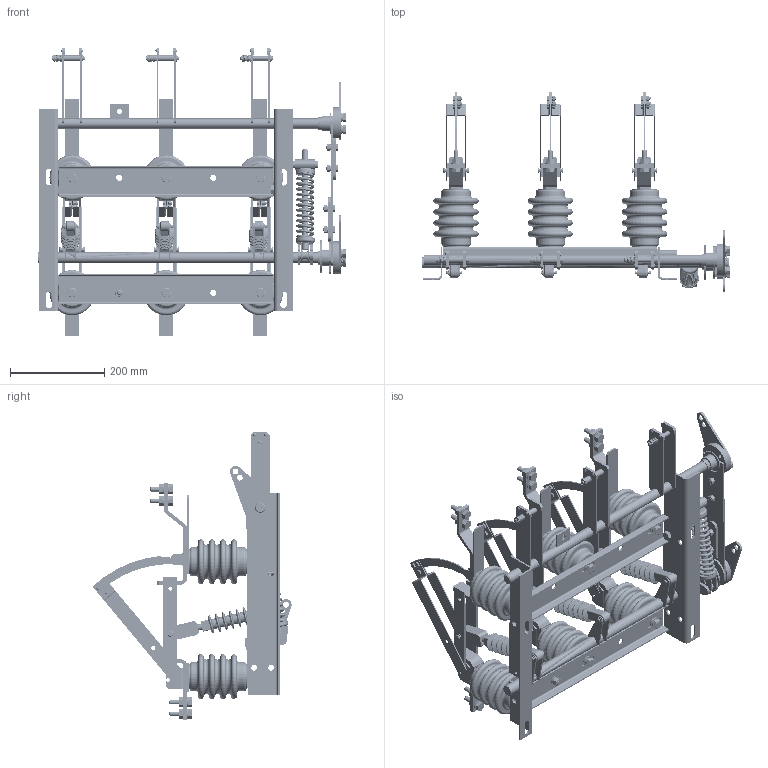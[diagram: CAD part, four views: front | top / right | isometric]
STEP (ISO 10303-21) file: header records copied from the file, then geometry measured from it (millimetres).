
FILE_DESCRIPTION (( 'STEP AP214' ), '1' );
FILE_NAME ('Âûêëþ÷àòåëü íàãðóçêè ÂÍÀ-10630-Ë-Iç-È2-ÓÕË2-ÊÝÀÇ.STEP', '2023-02-01T08:00:23', ( '' ), ( '' ), 'SwSTEP 2.0', 'SolidWorks 2018', '' );
FILE_SCHEMA (( 'AUTOMOTIVE_DESIGN' ));
Length unit declared in the file: millimetre
Products named in the file (1): Âûêëþ÷àòåëü íàãðóçêè ÂÍÀ-10630-Ë-Iç-È2-ÓÕË2-ÊÝÀÇ
Bounding box: 654.4 x 423.02 x 609.57 mm (x, y, z)
Surface area: 1502361.4 mm2
Topology: 20 solids, 21 shells, 3507 faces, 8860 edges, 5607 vertices
Faces by surface type: plane 1916, cylinder 1004, cone 343, torus 195, bspline 37, sphere 12
Full cylindrical faces by diameter (mm): 4 x1, 5 x7, 6.716 x2, 7.094 x1, 7.525 x1, 8 x10, 8.1 x2, 8.375 x1, 8.5 x8, 9.465 x3, 9.64 x3, 10 x16, 10.14 x3, 10.3 x20, 10.5 x4, 11 x1, 11.845 x4, 12.2 x4, 12.303 x3, 12.35 x6, 13.324 x3, 13.726 x3, 13.785 x3, 15.432 x3, 16 x8, 16.139 x1, 16.2 x2, 16.649 x1, 17.332 x1, 20 x4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
Entity records: 181857 total; most frequent: CARTESIAN_POINT 64526, ORIENTED_EDGE 16984, DIRECTION 16902, EDGE_CURVE 8492, AXIS2_PLACEMENT_3D 6322, VERTEX_POINT 5481, LINE 4258, VECTOR 4258
